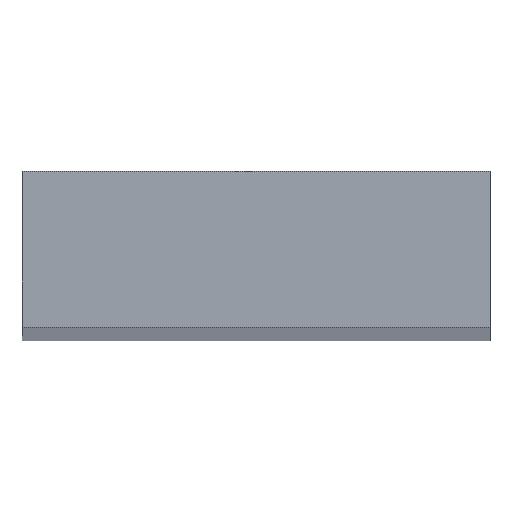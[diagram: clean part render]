
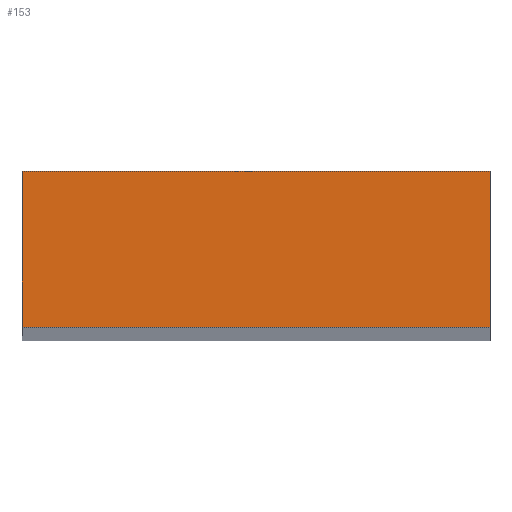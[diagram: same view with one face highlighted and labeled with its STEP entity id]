
A CAD part, top view. The second image highlights one B-rep face of the part: STEP entity #153.
In plain terms, the highlighted planar face has unit normal (0, 0, 1).
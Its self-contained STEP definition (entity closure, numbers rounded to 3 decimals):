
#24 = VERTEX_POINT('',#25);
#25 = CARTESIAN_POINT('',(29.,-158.,298.));
#40 = VERTEX_POINT('',#41);
#41 = CARTESIAN_POINT('',(29.,-154.,298.));
#47 = EDGE_CURVE('',#24,#40,#48,.T.);
#48 = LINE('',#49,#50);
#49 = CARTESIAN_POINT('',(29.,-158.,298.));
#50 = VECTOR('',#51,1.);
#51 = DIRECTION('',(0.,1.,0.));
#64 = VERTEX_POINT('',#65);
#65 = CARTESIAN_POINT('',(41.,-158.,298.));
#80 = VERTEX_POINT('',#81);
#81 = CARTESIAN_POINT('',(41.,-154.,298.));
#87 = EDGE_CURVE('',#64,#80,#88,.T.);
#88 = LINE('',#89,#90);
#89 = CARTESIAN_POINT('',(41.,-158.,298.));
#90 = VECTOR('',#91,1.);
#91 = DIRECTION('',(0.,1.,0.));
#108 = EDGE_CURVE('',#24,#64,#109,.T.);
#109 = LINE('',#110,#111);
#110 = CARTESIAN_POINT('',(29.,-158.,298.));
#111 = VECTOR('',#112,1.);
#112 = DIRECTION('',(1.,0.,0.));
#130 = EDGE_CURVE('',#40,#80,#131,.T.);
#131 = LINE('',#132,#133);
#132 = CARTESIAN_POINT('',(29.,-154.,298.));
#133 = VECTOR('',#134,1.);
#134 = DIRECTION('',(1.,0.,0.));
#153 = ADVANCED_FACE('',(#154),#160,.T.);
#154 = FACE_BOUND('',#155,.T.);
#155 = EDGE_LOOP('',(#156,#157,#158,#159));
#156 = ORIENTED_EDGE('',*,*,#47,.F.);
#157 = ORIENTED_EDGE('',*,*,#108,.T.);
#158 = ORIENTED_EDGE('',*,*,#87,.T.);
#159 = ORIENTED_EDGE('',*,*,#130,.F.);
#160 = PLANE('',#161);
#161 = AXIS2_PLACEMENT_3D('',#162,#163,#164);
#162 = CARTESIAN_POINT('',(29.,-158.,298.));
#163 = DIRECTION('',(0.,0.,1.));
#164 = DIRECTION('',(1.,0.,0.));
